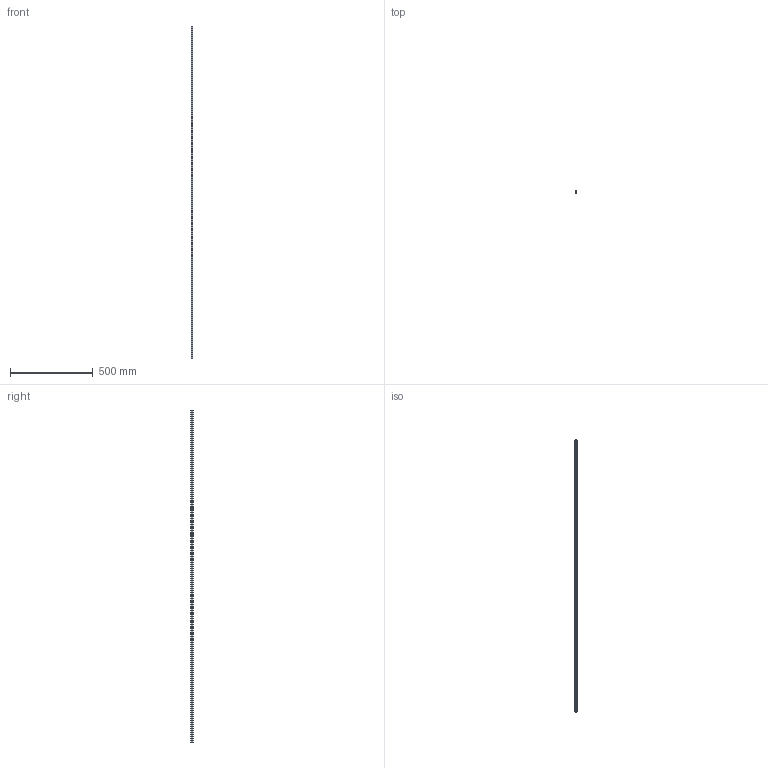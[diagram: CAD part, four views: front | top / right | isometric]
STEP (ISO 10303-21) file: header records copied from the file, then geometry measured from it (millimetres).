
FILE_DESCRIPTION((''),'2;1');
FILE_NAME('C:\Documents and Settings\古川典政\My Documents\Inventor\HP用\MasterData\ACCESSORY\M8\FS2-08C.stp','2008-08-05T16:55:41',(''),(''),'Autodesk Inventor 2008','Autodesk Inventor 2008','');
FILE_SCHEMA(('CONFIG_CONTROL_DESIGN'));
Length unit declared in the file: millimetre
Products named in the file (1): FS2-08C
Bounding box: 11 x 13 x 2000 mm (x, y, z)
Volume: 75400 mm3; surface area: 154875.4 mm2
Topology: 1 solids, 1 shells, 26 faces, 72 edges, 48 vertices
Faces by surface type: plane 26
Entity records: 833 total; most frequent: CARTESIAN_POINT 147, ORIENTED_EDGE 144, DIRECTION 126, VECTOR 72, LINE 72, EDGE_CURVE 72, VERTEX_POINT 48, AXIS2_PLACEMENT_3D 27
